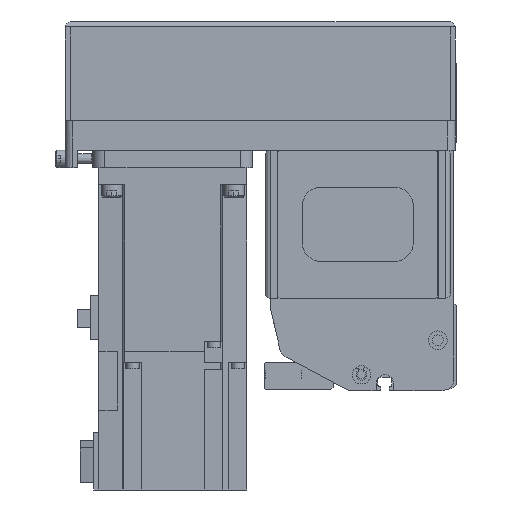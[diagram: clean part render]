
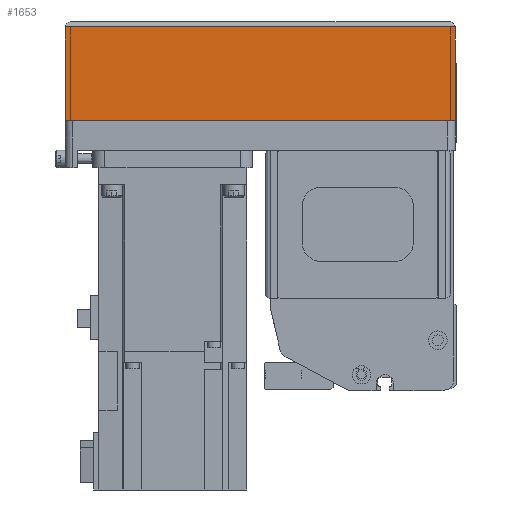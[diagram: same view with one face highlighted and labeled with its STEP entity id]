
A CAD part, left-side view. The second image highlights one B-rep face of the part: STEP entity #1653.
In plain terms, the highlighted planar face has unit normal (-1, 0, 0) as drawn and (0, 1, 0) by its records, which use the part's own axes.
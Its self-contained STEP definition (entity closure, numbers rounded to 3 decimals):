
#1653 = ADVANCED_FACE( '', ( #4085 ), #4086, .T. );
#4085 = FACE_OUTER_BOUND( '', #7516, .T. );
#4086 = PLANE( '', #7517 );
#7516 = EDGE_LOOP( '', ( #12209, #12210, #12211, #12212 ) );
#7517 = AXIS2_PLACEMENT_3D( '', #12213, #12214, #12215 );
#12209 = ORIENTED_EDGE( '', *, *, #20483, .F. );
#12210 = ORIENTED_EDGE( '', *, *, #20484, .F. );
#12211 = ORIENTED_EDGE( '', *, *, #20485, .T. );
#12212 = ORIENTED_EDGE( '', *, *, #20486, .T. );
#12213 = CARTESIAN_POINT( '', ( -158., 39., -50. ) );
#12214 = DIRECTION( '', ( 0., 1., 0. ) );
#12215 = DIRECTION( '', ( 0., 0., 1. ) );
#20483 = EDGE_CURVE( '', #24883, #24884, #24885, .T. );
#20484 = EDGE_CURVE( '', #23093, #24883, #24886, .T. );
#20485 = EDGE_CURVE( '', #23093, #24887, #24888, .T. );
#20486 = EDGE_CURVE( '', #24887, #24884, #24889, .T. );
#23093 = VERTEX_POINT( '', #28544 );
#24883 = VERTEX_POINT( '', #31246 );
#24884 = VERTEX_POINT( '', #31247 );
#24885 = LINE( '', #31248, #31249 );
#24886 = LINE( '', #31250, #31251 );
#24887 = VERTEX_POINT( '', #31252 );
#24888 = LINE( '', #31253, #31254 );
#24889 = LINE( '', #31255, #31256 );
#28544 = CARTESIAN_POINT( '', ( -158., 39., -50. ) );
#31246 = CARTESIAN_POINT( '', ( 0., 39., -50. ) );
#31247 = CARTESIAN_POINT( '', ( 0., 39., -12.1 ) );
#31248 = CARTESIAN_POINT( '', ( 0., 39., -50. ) );
#31249 = VECTOR( '', #37621, 1000. );
#31250 = CARTESIAN_POINT( '', ( -158., 39., -50. ) );
#31251 = VECTOR( '', #37622, 1000. );
#31252 = CARTESIAN_POINT( '', ( -158., 39., -12.1 ) );
#31253 = CARTESIAN_POINT( '', ( -158., 39., -50. ) );
#31254 = VECTOR( '', #37623, 1000. );
#31255 = CARTESIAN_POINT( '', ( -158., 39., -12.1 ) );
#31256 = VECTOR( '', #37624, 1000. );
#37621 = DIRECTION( '', ( 0., 0., 1. ) );
#37622 = DIRECTION( '', ( 1., 0., 0. ) );
#37623 = DIRECTION( '', ( 0., 0., 1. ) );
#37624 = DIRECTION( '', ( 1., 0., 0. ) );
